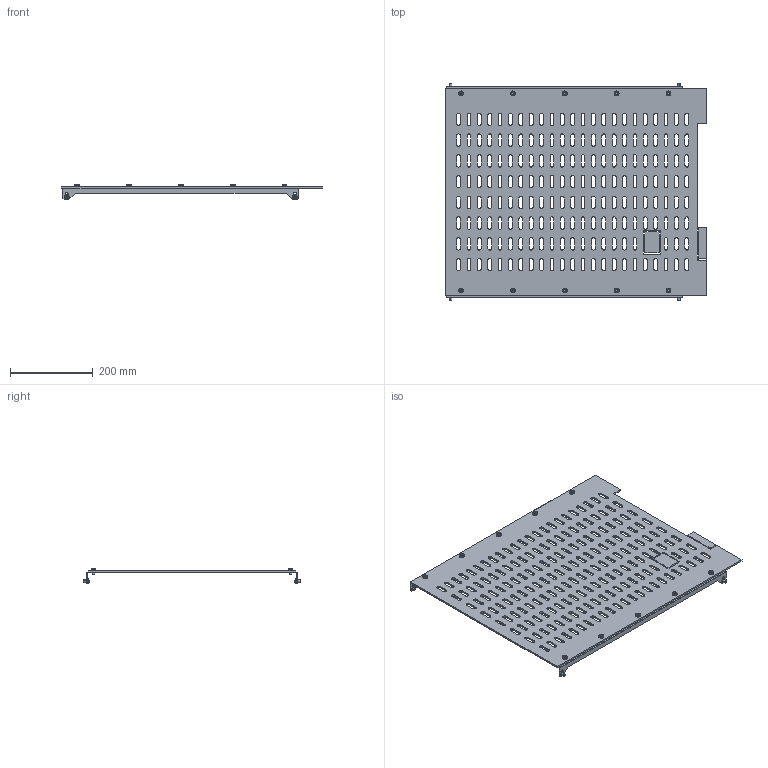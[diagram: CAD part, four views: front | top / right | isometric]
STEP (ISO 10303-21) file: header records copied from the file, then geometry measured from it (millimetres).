
FILE_DESCRIPTION (( 'STEP AP214' ), '1' );
FILE_NAME ('FO-00-3BABW-060-060 Êîìïëåêò ñåêöèîíèðîâàíèÿ 3b äëÿ ARMAT ACB òèïîðàçìåð AIIB âûêàòíîãî èñïîëíåíèÿ 3II4P 600õ600 â øêàô ãëóáèíîé 1000 ìì.STEP', '2025-08-12T07:07:19', ( '' ), ( '' ), 'SwSTEP 2.0', 'SolidWorks 2023', '' );
FILE_SCHEMA (( 'AUTOMOTIVE_DESIGN' ));
Length unit declared in the file: millimetre
Products named in the file (3): FO-00-3BABW-060-060 Комплект секционирования 3b для ARMAT ACB типоразмер AIIB выкатного исполнения 3II4P 600х600 в шкаф глубиной 1000 мм; Комплект секционирования 3b для ARMAT ACB типоразмер AIIB выкатного исполнения 3II4P 600х600 в шкаф глубиной 1000 мм; 2хМ6х10х400
Assembly tree (3 placements, depth 2):
  FO-00-3BABW-060-060 Комплект секционирования 3b для ARMAT ACB типоразмер AIIB выкатного исполнения 3II4P 600х600 в шкаф глубиной 1000 мм
    Комплект секционирования 3b для ARMAT ACB типоразмер AIIB выкатного исполнения 3II4P 600х600 в шкаф глубиной 1000 мм
    2хМ6х10х400  x2
Bounding box: 630 x 525 x 37 mm (x, y, z)
Volume: 1123988.7 mm3; surface area: 633112.4 mm2
Topology: 5 solids, 15 shells, 1314 faces, 3642 edges, 2392 vertices
Faces by surface type: cylinder 682, plane 528, cone 48, torus 48, sphere 8
Entity records: 41685 total; most frequent: DIRECTION 7392, CARTESIAN_POINT 7206, ORIENTED_EDGE 7008, EDGE_CURVE 3504, AXIS2_PLACEMENT_3D 2658, VERTEX_POINT 2304, VECTOR 2076, LINE 2076
